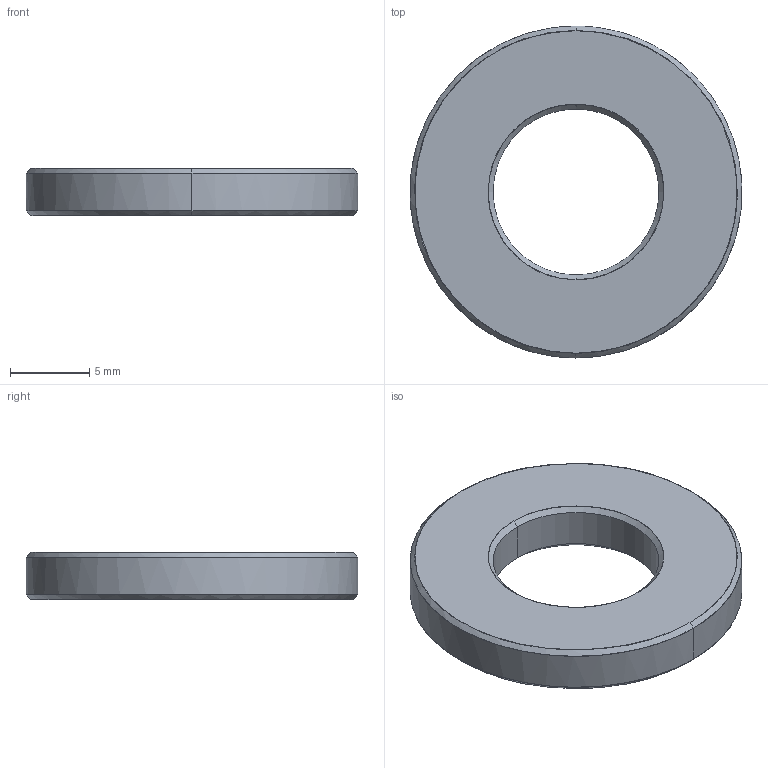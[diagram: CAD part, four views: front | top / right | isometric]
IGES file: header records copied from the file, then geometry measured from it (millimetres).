
Global section: file name: E:\UnigraphicsGraphicData\MISUMI_PRESS-PARTS\IGES\3d_wss10_00531_r00.igs; native system: NX V5.0; preprocessor: UGS NX IGES V5.0; author: MISUMI; date: 20110105.163507; units: millimetre
Bounding box: 20.97 x 21 x 3 mm (x, y, z)
Surface area: 783.2 mm2 (no closed solid volume)
Topology: 0 solids, 0 shells, 14 faces, 80 edges, 80 vertices
Faces by surface type: bspline 14
